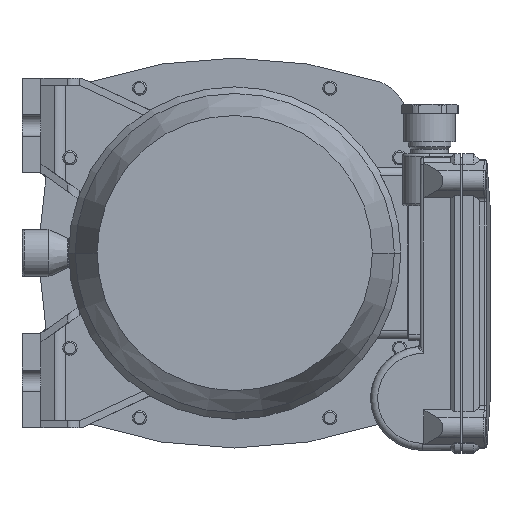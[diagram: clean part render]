
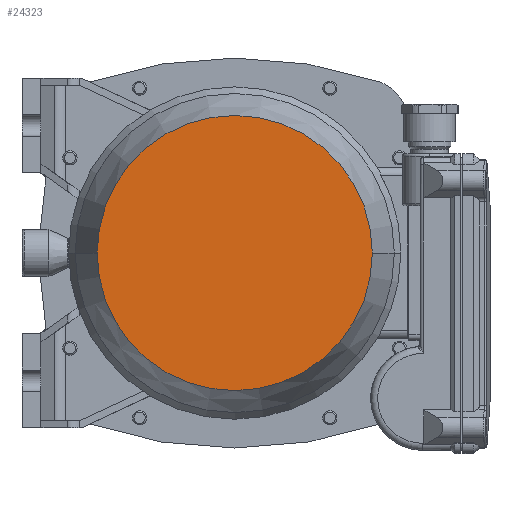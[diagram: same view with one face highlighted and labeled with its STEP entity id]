
A CAD part, front view. The second image highlights one B-rep face of the part: STEP entity #24323.
In plain terms, the highlighted planar face has unit normal (0, -1, 0) as drawn and (1, 0, 0) by its records, which use the part's own axes.
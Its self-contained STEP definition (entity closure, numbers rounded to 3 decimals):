
#18440=CARTESIAN_POINT('',(181.,0.,0.));
#18441=DIRECTION('',(-1.,0.,0.));
#18442=DIRECTION('',(0.,1.,0.));
#18443=AXIS2_PLACEMENT_3D('',#18440,#18441,#18442);
#18448=CARTESIAN_POINT('',(181.,0.,0.));
#18449=DIRECTION('',(1.,0.,0.));
#18450=DIRECTION('',(0.,1.,0.));
#18451=AXIS2_PLACEMENT_3D('',#18448,#18449,#18450);
#19727=CARTESIAN_POINT('',(181.,58.207,0.));
#19729=VERTEX_POINT('',#19727);
#19737=CARTESIAN_POINT('',(181.,-58.207,0.));
#19739=VERTEX_POINT('',#19737);
#24314=CARTESIAN_POINT('',(181.,0.,0.));
#24315=DIRECTION('',(1.,0.,0.));
#24316=DIRECTION('',(0.,-1.,0.));
#24317=AXIS2_PLACEMENT_3D('',#24314,#24315,#24316);
#24318=PLANE('',#24317);
#24319=ORIENTED_EDGE('',*,*,#24296,.T.);
#24320=ORIENTED_EDGE('',*,*,#24307,.F.);
#24321=EDGE_LOOP('',(#24319,#24320));
#24322=FACE_OUTER_BOUND('',#24321,.F.);
#18444=CIRCLE('',#18443,58.207);
#18452=CIRCLE('',#18451,58.207);
#24296=EDGE_CURVE('',#19729,#19739,#18444,.T.);
#24307=EDGE_CURVE('',#19729,#19739,#18452,.T.);
#24323=ADVANCED_FACE('',(#24322),#24318,.T.);
